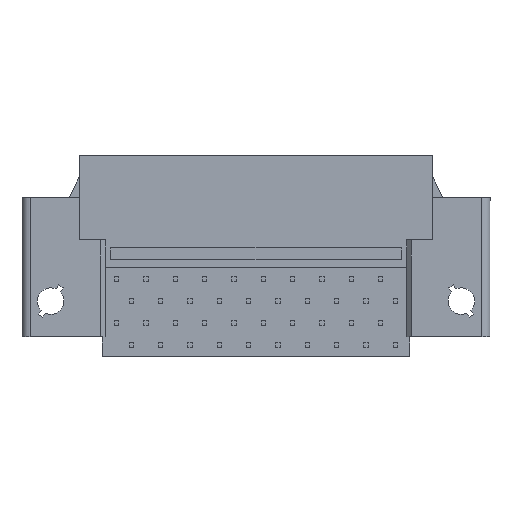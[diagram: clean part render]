
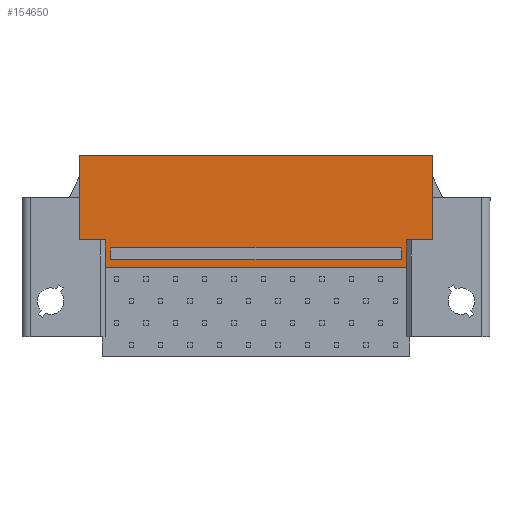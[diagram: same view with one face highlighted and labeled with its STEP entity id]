
A CAD part, front view. The second image highlights one B-rep face of the part: STEP entity #154650.
In plain terms, the highlighted planar face has unit normal (0, -1, 0).
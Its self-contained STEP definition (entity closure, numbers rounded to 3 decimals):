
#3740=CARTESIAN_POINT('',(-56.69,8.036,15.7));
#3750=VERTEX_POINT('',#3740);
#3920=CARTESIAN_POINT('',(-26.16,8.036,15.7));
#3930=VERTEX_POINT('',#3920);
#3960=CARTESIAN_POINT('',(-5.08,8.036,15.7));
#3970=DIRECTION('',(-1.,0.,0.));
#3980=VECTOR('',#3970,1.);
#3990=LINE('',#3960,#3980);
#4000=EDGE_CURVE('',#3930,#3750,#3990,.T.);
#29360=CARTESIAN_POINT('',(-26.16,8.036,12.05));
#29370=VERTEX_POINT('',#29360);
#50470=CARTESIAN_POINT('',(-54.49,8.036,
8.4));
#50480=VERTEX_POINT('',#50470);
#50510=CARTESIAN_POINT('',(-54.49,8.036,0.));
#50520=DIRECTION('',(0.,0.,1.));
#50530=VECTOR('',#50520,1.);
#50540=LINE('',#50510,#50530);
#50550=CARTESIAN_POINT('',(-54.49,8.036,6.));
#50560=VERTEX_POINT('',#50550);
#50570=EDGE_CURVE('',#50560,#50480,#50540,.T.);
#52330=CARTESIAN_POINT('',(-56.69,8.036,0.));
#52340=DIRECTION('',(0.,0.,-1.));
#52350=VECTOR('',#52340,1.);
#52360=LINE('',#52330,#52350);
#52370=CARTESIAN_POINT('',(-56.69,8.036,12.05));
#52380=VERTEX_POINT('',#52370);
#52390=EDGE_CURVE('',#3750,#52380,#52360,.T.);
#70590=CARTESIAN_POINT('',(-53.99,8.036,0.));
#70600=DIRECTION('',(0.,0.,-1.));
#70610=VECTOR('',#70600,1.);
#70620=LINE('',#70590,#70610);
#70630=CARTESIAN_POINT('',(-53.99,8.036,
7.7));
#70640=VERTEX_POINT('',#70630);
#70650=CARTESIAN_POINT('',(-53.99,8.036,
6.7));
#70660=VERTEX_POINT('',#70650);
#70670=EDGE_CURVE('',#70640,#70660,#70620,.T.);
#71160=CARTESIAN_POINT('',(-54.49,8.036,
8.4));
#71170=DIRECTION('',(-1.,0.,0.));
#71180=VECTOR('',#71170,1.);
#71190=LINE('',#71160,#71180);
#71200=CARTESIAN_POINT('',(-56.69,8.036,
8.4));
#71210=VERTEX_POINT('',#71200);
#71220=EDGE_CURVE('',#50480,#71210,#71190,.T.);
#153870=CARTESIAN_POINT('',(-67.19,8.036,15.7));
#153880=DIRECTION('',(-0.,1.,0.));
#153890=DIRECTION('',(1.,0.,0.));
#153900=AXIS2_PLACEMENT_3D('',#153870,#153880,#153890);
#153910=PLANE('',#153900);
#153920=ORIENTED_EDGE('',*,*,#70670,.F.);
#153930=CARTESIAN_POINT('',(5.08,8.036,
6.7));
#153940=DIRECTION('',(1.,0.,0.));
#153950=VECTOR('',#153940,1.);
#153960=LINE('',#153930,#153950);
#153970=CARTESIAN_POINT('',(-28.86,8.036,
6.7));
#153980=VERTEX_POINT('',#153970);
#153990=EDGE_CURVE('',#70660,#153980,#153960,.T.);
#154000=ORIENTED_EDGE('',*,*,#153990,.F.);
#154010=CARTESIAN_POINT('',(-28.86,8.036,0.));
#154020=DIRECTION('',(0.,0.,1.));
#154030=VECTOR('',#154020,1.);
#154040=LINE('',#154010,#154030);
#154050=CARTESIAN_POINT('',(-28.86,8.036,
7.7));
#154060=VERTEX_POINT('',#154050);
#154070=EDGE_CURVE('',#153980,#154060,#154040,.T.);
#154080=ORIENTED_EDGE('',*,*,#154070,.F.);
#154090=CARTESIAN_POINT('',(-5.08,8.036,
7.7));
#154100=DIRECTION('',(-1.,0.,0.));
#154110=VECTOR('',#154100,1.);
#154120=LINE('',#154090,#154110);
#154130=EDGE_CURVE('',#154060,#70640,#154120,.T.);
#154140=ORIENTED_EDGE('',*,*,#154130,.F.);
#154150=EDGE_LOOP('',(#154140,#154080,#154000,#153920));
#154160=FACE_BOUND('',#154150,.T.);
#154170=CARTESIAN_POINT('',(-26.16,8.036,0.));
#154180=DIRECTION('',(0.,0.,1.));
#154190=VECTOR('',#154180,1.);
#154200=LINE('',#154170,#154190);
#154210=EDGE_CURVE('',#29370,#3930,#154200,.T.);
#154220=ORIENTED_EDGE('',*,*,#154210,.T.);
#154230=CARTESIAN_POINT('',(-26.16,8.036,0.));
#154240=DIRECTION('',(0.,0.,-1.));
#154250=VECTOR('',#154240,1.);
#154260=LINE('',#154230,#154250);
#154270=CARTESIAN_POINT('',(-26.16,8.036,
8.4));
#154280=VERTEX_POINT('',#154270);
#154290=EDGE_CURVE('',#29370,#154280,#154260,.T.);
#154300=ORIENTED_EDGE('',*,*,#154290,.F.);
#154310=CARTESIAN_POINT('',(-26.16,8.036,
8.4));
#154320=DIRECTION('',(-1.,0.,0.));
#154330=VECTOR('',#154320,1.);
#154340=LINE('',#154310,#154330);
#154350=CARTESIAN_POINT('',(-28.36,8.036,
8.4));
#154360=VERTEX_POINT('',#154350);
#154370=EDGE_CURVE('',#154280,#154360,#154340,.T.);
#154380=ORIENTED_EDGE('',*,*,#154370,.F.);
#154390=CARTESIAN_POINT('',(-28.36,8.036,0.));
#154400=DIRECTION('',(0.,0.,1.));
#154410=VECTOR('',#154400,1.);
#154420=LINE('',#154390,#154410);
#154430=CARTESIAN_POINT('',(-28.36,8.036,6.));
#154440=VERTEX_POINT('',#154430);
#154450=EDGE_CURVE('',#154440,#154360,#154420,.T.);
#154460=ORIENTED_EDGE('',*,*,#154450,.T.);
#154470=CARTESIAN_POINT('',(0.,8.036,6.));
#154480=DIRECTION('',(1.,0.,0.));
#154490=VECTOR('',#154480,1.);
#154500=LINE('',#154470,#154490);
#154510=EDGE_CURVE('',#50560,#154440,#154500,.T.);
#154520=ORIENTED_EDGE('',*,*,#154510,.T.);
#154530=ORIENTED_EDGE('',*,*,#50570,.F.);
#154540=ORIENTED_EDGE('',*,*,#71220,.F.);
#154550=CARTESIAN_POINT('',(-56.69,8.036,0.));
#154560=DIRECTION('',(0.,0.,1.));
#154570=VECTOR('',#154560,1.);
#154580=LINE('',#154550,#154570);
#154590=EDGE_CURVE('',#71210,#52380,#154580,.T.);
#154600=ORIENTED_EDGE('',*,*,#154590,.F.);
#154610=ORIENTED_EDGE('',*,*,#52390,.T.);
#154620=ORIENTED_EDGE('',*,*,#4000,.T.);
#154630=EDGE_LOOP('',(#154620,#154610,#154600,#154540,#154530,#154520,
#154460,#154380,#154300,#154220));
#154640=FACE_OUTER_BOUND('',#154630,.T.);
#154650=ADVANCED_FACE('',(#154160,#154640),#153910,.F.);
